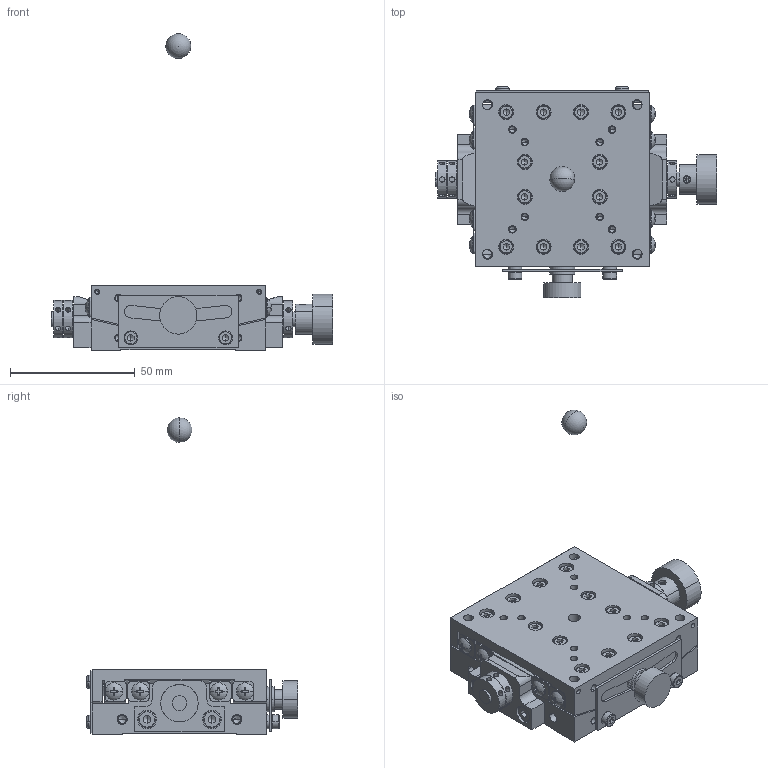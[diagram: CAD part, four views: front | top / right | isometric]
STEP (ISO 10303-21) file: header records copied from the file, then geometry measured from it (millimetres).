
FILE_DESCRIPTION (( 'STEP AP203' ), '1' );
FILE_NAME ('SH07A-RM-R.STEP', '2015-05-12T03:52:02', ( '' ), ( '' ), 'SwSTEP 2.0', 'SolidWorks 2011', '' );
FILE_SCHEMA (( 'CONFIG_CONTROL_DESIGN' ));
Products named in the file (4): SH07A-RM-R; table-20; base-28; rotation-center-21
Assembly tree (3 placements, depth 2):
  SH07A-RM-R
    rotation-center-21
    base-28
    table-20
Bounding box: 113 x 84.96 x 127 mm (x, y, z)
Volume: 126312.3 mm3; surface area: 52457.3 mm2
Topology: 3 solids, 53 shells, 2328 faces, 5594 edges, 3418 vertices
Faces by surface type: plane 1176, cylinder 737, cone 327, torus 56, sphere 26, bspline 6
Entity records: 71434 total; most frequent: CARTESIAN_POINT 16539, DIRECTION 11800, ORIENTED_EDGE 10934, EDGE_CURVE 5467, AXIS2_PLACEMENT_3D 4334, VERTEX_POINT 3415, VECTOR 3132, LINE 3132
